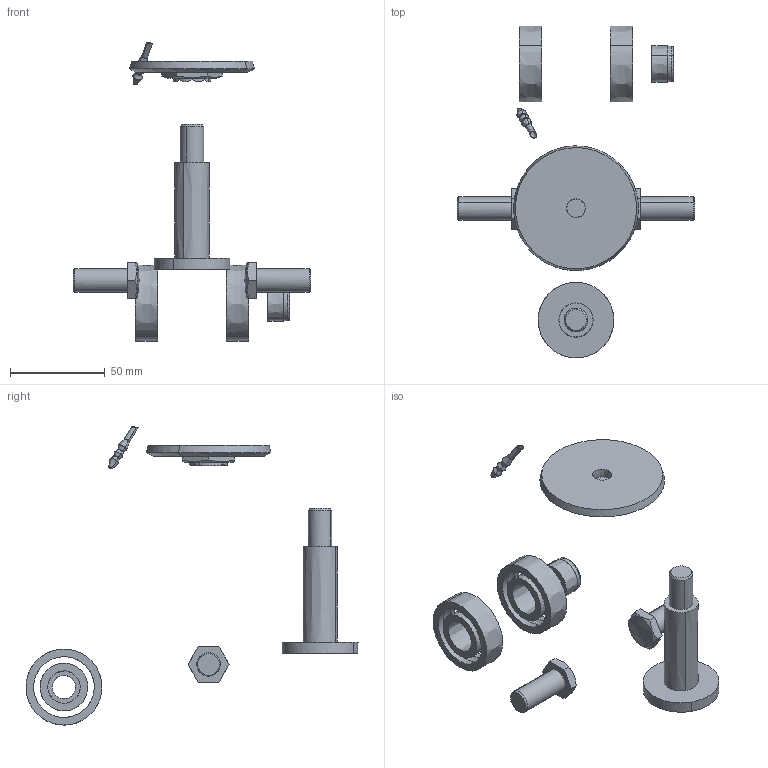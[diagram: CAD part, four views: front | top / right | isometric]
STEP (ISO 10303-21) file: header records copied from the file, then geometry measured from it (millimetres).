
FILE_DESCRIPTION (( 'STEP AP214' ), '1' );
FILE_NAME ('KTU-200WJ-GS-40.STEP', '2018-08-30T07:58:58', ( '' ), ( '' ), 'SwSTEP 2.0', 'SolidWorks 2010', '' );
FILE_SCHEMA (( 'AUTOMOTIVE_DESIGN' ));
Length unit declared in the file: millimetre
Products named in the file (1): KTU-200WJ-GS-40
Bounding box: 125.8 x 175.57 x 157.63 mm (x, y, z)
Volume: 72352.3 mm3; surface area: 32982.5 mm2
Topology: 10 solids, 10 shells, 193 faces, 552 edges, 381 vertices
Faces by surface type: bspline 135, plane 52, cone 6
Entity records: 28736 total; most frequent: CARTESIAN_POINT 23814, ORIENTED_EDGE 1096, EDGE_CURVE 548, B_SPLINE_CURVE_WITH_KNOTS 425, VERTEX_POINT 381, DIRECTION 247, EDGE_LOOP 211, ADVANCED_FACE 193
